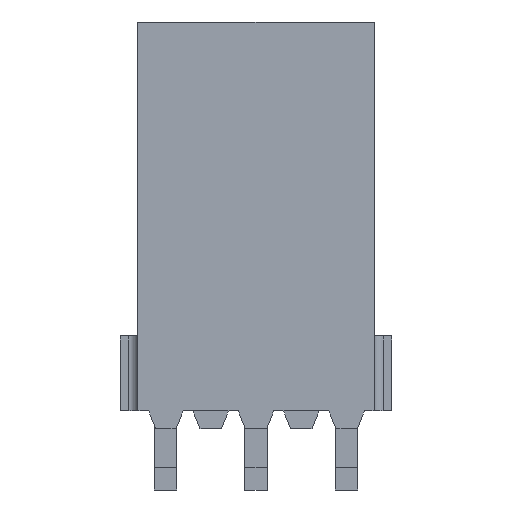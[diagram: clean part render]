
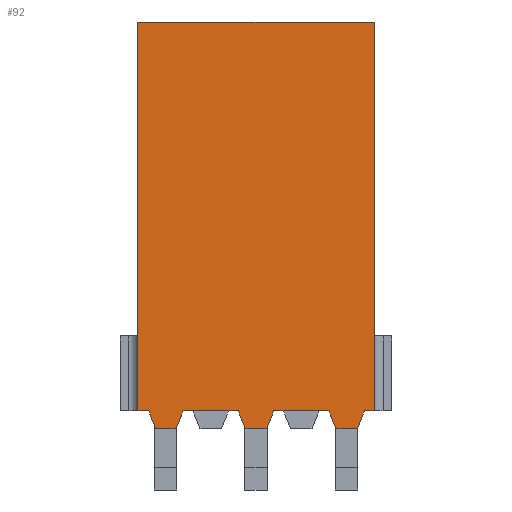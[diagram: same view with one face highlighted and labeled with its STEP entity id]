
A CAD part, front view. The second image highlights one B-rep face of the part: STEP entity #92.
In plain terms, the highlighted planar face has unit normal (0, -1, 0).
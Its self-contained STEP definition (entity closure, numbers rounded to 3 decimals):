
#92=ADVANCED_FACE('',(#334),#335,.T.);
#334=FACE_OUTER_BOUND('',#715,.T.);
#335=PLANE('',#716);
#715=EDGE_LOOP('',(#1489,#1490,#1491,#1492,#1493,#1494,#1495,#1496,#1497,#1498,#1499,#1500,#1501,#1502,#1503,#1504));
#716=AXIS2_PLACEMENT_3D('',#1505,#1506,#1507);
#1489=ORIENTED_EDGE('',*,*,#2819,.T.);
#1490=ORIENTED_EDGE('',*,*,#2820,.F.);
#1491=ORIENTED_EDGE('',*,*,#2636,.F.);
#1492=ORIENTED_EDGE('',*,*,#2821,.F.);
#1493=ORIENTED_EDGE('',*,*,#2822,.T.);
#1494=ORIENTED_EDGE('',*,*,#2823,.F.);
#1495=ORIENTED_EDGE('',*,*,#2632,.F.);
#1496=ORIENTED_EDGE('',*,*,#2818,.T.);
#1497=ORIENTED_EDGE('',*,*,#2824,.F.);
#1498=ORIENTED_EDGE('',*,*,#2825,.T.);
#1499=ORIENTED_EDGE('',*,*,#2608,.T.);
#1500=ORIENTED_EDGE('',*,*,#2826,.T.);
#1501=ORIENTED_EDGE('',*,*,#2827,.T.);
#1502=ORIENTED_EDGE('',*,*,#2828,.F.);
#1503=ORIENTED_EDGE('',*,*,#2640,.F.);
#1504=ORIENTED_EDGE('',*,*,#2829,.F.);
#1505=CARTESIAN_POINT('',(-3.81,-2.5,0.0));
#1506=DIRECTION('',(0.0,-1.0,0.0));
#1507=DIRECTION('',(0.0,0.0,-1.0));
#2608=EDGE_CURVE('',#3167,#3164,#3168,.T.);
#2632=EDGE_CURVE('',#3212,#3214,#3215,.T.);
#2636=EDGE_CURVE('',#3220,#3222,#3223,.T.);
#2640=EDGE_CURVE('',#3228,#3230,#3231,.T.);
#2818=EDGE_CURVE('',#3212,#3541,#3543,.T.);
#2819=EDGE_CURVE('',#3544,#3545,#3546,.T.);
#2820=EDGE_CURVE('',#3222,#3545,#3547,.T.);
#2821=EDGE_CURVE('',#3548,#3220,#3549,.T.);
#2822=EDGE_CURVE('',#3548,#3550,#3551,.T.);
#2823=EDGE_CURVE('',#3214,#3550,#3552,.T.);
#2824=EDGE_CURVE('',#3553,#3541,#3554,.T.);
#2825=EDGE_CURVE('',#3553,#3167,#3555,.T.);
#2826=EDGE_CURVE('',#3164,#3556,#3557,.T.);
#2827=EDGE_CURVE('',#3556,#3558,#3559,.T.);
#2828=EDGE_CURVE('',#3230,#3558,#3560,.T.);
#2829=EDGE_CURVE('',#3544,#3228,#3561,.T.);
#3164=VERTEX_POINT('',#4033);
#3167=VERTEX_POINT('',#4037);
#3168=LINE('',#4038,#4039);
#3212=VERTEX_POINT('',#4103);
#3214=VERTEX_POINT('',#4106);
#3215=LINE('',#4107,#4108);
#3220=VERTEX_POINT('',#4115);
#3222=VERTEX_POINT('',#4118);
#3223=LINE('',#4119,#4120);
#3228=VERTEX_POINT('',#4127);
#3230=VERTEX_POINT('',#4130);
#3231=LINE('',#4131,#4132);
#3541=VERTEX_POINT('',#4588);
#3543=LINE('',#4591,#4592);
#3544=VERTEX_POINT('',#4593);
#3545=VERTEX_POINT('',#4594);
#3546=LINE('',#4595,#4596);
#3547=LINE('',#4597,#4598);
#3548=VERTEX_POINT('',#4599);
#3549=LINE('',#4600,#4601);
#3550=VERTEX_POINT('',#4602);
#3551=LINE('',#4603,#4604);
#3552=LINE('',#4605,#4606);
#3553=VERTEX_POINT('',#4607);
#3554=LINE('',#4608,#4609);
#3555=LINE('',#4610,#4611);
#3556=VERTEX_POINT('',#4612);
#3557=LINE('',#4613,#4614);
#3558=VERTEX_POINT('',#4615);
#3559=LINE('',#4616,#4617);
#3560=LINE('',#4618,#4619);
#3561=LINE('',#4620,#4621);
#4033=CARTESIAN_POINT('',(-3.01,-2.5,-10.9));
#4037=CARTESIAN_POINT('',(-3.31,-2.5,-10.9));
#4038=CARTESIAN_POINT('',(-3.31,-2.5,-10.9));
#4039=VECTOR('',#5262,0.3);
#4103=CARTESIAN_POINT('',(3.31,-2.5,-10.9));
#4106=CARTESIAN_POINT('',(3.04,-2.5,-10.9));
#4107=CARTESIAN_POINT('',(3.31,-2.5,-10.9));
#4108=VECTOR('',#5290,0.27);
#4115=CARTESIAN_POINT('',(2.04,-2.5,-10.9));
#4118=CARTESIAN_POINT('',(0.5,-2.5,-10.9));
#4119=CARTESIAN_POINT('',(2.04,-2.5,-10.9));
#4120=VECTOR('',#5294,1.54);
#4127=CARTESIAN_POINT('',(-0.5,-2.5,-10.9));
#4130=CARTESIAN_POINT('',(-2.04,-2.5,-10.9));
#4131=CARTESIAN_POINT('',(-0.5,-2.5,-10.9));
#4132=VECTOR('',#5298,1.54);
#4588=CARTESIAN_POINT('',(3.31,-2.5,0.0));
#4591=CARTESIAN_POINT('',(3.31,-2.5,-10.9));
#4592=VECTOR('',#5536,10.9);
#4593=CARTESIAN_POINT('',(-0.3,-2.5,-11.4));
#4594=CARTESIAN_POINT('',(0.3,-2.5,-11.4));
#4595=CARTESIAN_POINT('',(-0.3,-2.5,-11.4));
#4596=VECTOR('',#5537,0.6);
#4597=CARTESIAN_POINT('',(0.5,-2.5,-10.9));
#4598=VECTOR('',#5538,0.539);
#4599=CARTESIAN_POINT('',(2.24,-2.5,-11.4));
#4600=CARTESIAN_POINT('',(2.24,-2.5,-11.4));
#4601=VECTOR('',#5539,0.539);
#4602=CARTESIAN_POINT('',(2.84,-2.5,-11.4));
#4603=CARTESIAN_POINT('',(2.24,-2.5,-11.4));
#4604=VECTOR('',#5540,0.6);
#4605=CARTESIAN_POINT('',(3.04,-2.5,-10.9));
#4606=VECTOR('',#5541,0.539);
#4607=CARTESIAN_POINT('',(-3.31,-2.5,0.0));
#4608=CARTESIAN_POINT('',(-3.31,-2.5,0.0));
#4609=VECTOR('',#5542,6.62);
#4610=CARTESIAN_POINT('',(-3.31,-2.5,0.0));
#4611=VECTOR('',#5543,10.9);
#4612=CARTESIAN_POINT('',(-2.81,-2.5,-11.4));
#4613=CARTESIAN_POINT('',(-3.01,-2.5,-10.9));
#4614=VECTOR('',#5544,0.539);
#4615=CARTESIAN_POINT('',(-2.24,-2.5,-11.4));
#4616=CARTESIAN_POINT('',(-2.81,-2.5,-11.4));
#4617=VECTOR('',#5545,0.57);
#4618=CARTESIAN_POINT('',(-2.04,-2.5,-10.9));
#4619=VECTOR('',#5546,0.539);
#4620=CARTESIAN_POINT('',(-0.3,-2.5,-11.4));
#4621=VECTOR('',#5547,0.539);
#5262=DIRECTION('',(1.0,0.0,0.0));
#5290=DIRECTION('',(-1.0,0.0,0.0));
#5294=DIRECTION('',(-1.0,0.0,0.0));
#5298=DIRECTION('',(-1.0,0.0,0.0));
#5536=DIRECTION('',(0.0,0.0,1.0));
#5537=DIRECTION('',(1.0,0.0,0.0));
#5538=DIRECTION('',(-0.371,0.0,-0.928));
#5539=DIRECTION('',(-0.371,0.0,0.928));
#5540=DIRECTION('',(1.0,0.0,0.0));
#5541=DIRECTION('',(-0.371,0.0,-0.928));
#5542=DIRECTION('',(1.0,0.0,0.0));
#5543=DIRECTION('',(0.0,0.0,-1.0));
#5544=DIRECTION('',(0.371,0.0,-0.928));
#5545=DIRECTION('',(1.0,0.0,0.0));
#5546=DIRECTION('',(-0.371,0.0,-0.928));
#5547=DIRECTION('',(-0.371,0.0,0.928));
